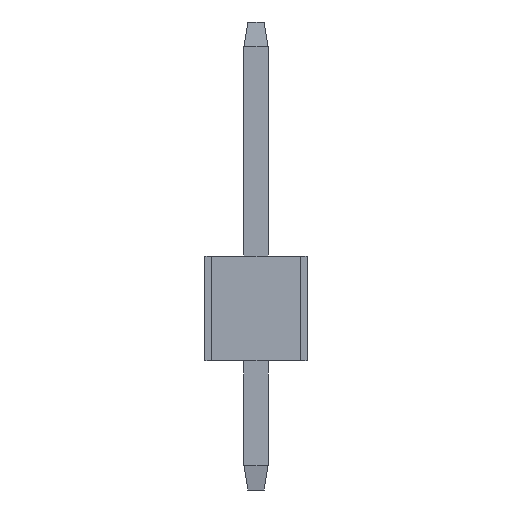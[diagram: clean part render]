
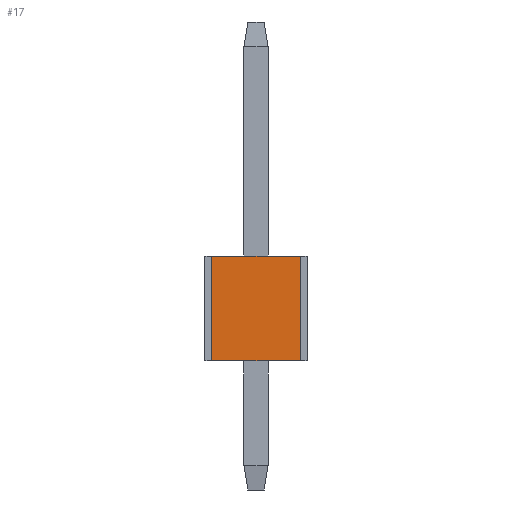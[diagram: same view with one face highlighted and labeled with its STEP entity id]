
A CAD part, left-side view. The second image highlights one B-rep face of the part: STEP entity #17.
In plain terms, the highlighted planar face has unit normal (-1, 0, 0).
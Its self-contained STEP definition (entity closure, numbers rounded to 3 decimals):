
#17 = ADVANCED_FACE('',(#18),#32,.F.);
#18 = FACE_BOUND('',#19,.F.);
#19 = EDGE_LOOP('',(#20,#55,#83,#111));
#20 = ORIENTED_EDGE('',*,*,#21,.F.);
#21 = EDGE_CURVE('',#22,#24,#26,.T.);
#22 = VERTEX_POINT('',#23);
#23 = CARTESIAN_POINT('',(0.,0.17,0.));
#24 = VERTEX_POINT('',#25);
#25 = CARTESIAN_POINT('',(0.,0.17,2.6));
#26 = SURFACE_CURVE('',#27,(#31,#43),.PCURVE_S1.);
#27 = LINE('',#28,#29);
#28 = CARTESIAN_POINT('',(0.,0.17,0.));
#29 = VECTOR('',#30,1.);
#30 = DIRECTION('',(0.,0.,1.));
#31 = PCURVE('',#32,#37);
#32 = PLANE('',#33);
#33 = AXIS2_PLACEMENT_3D('',#34,#35,#36);
#34 = CARTESIAN_POINT('',(0.,0.17,0.));
#35 = DIRECTION('',(1.,0.,0.));
#36 = DIRECTION('',(0.,0.,1.));
#37 = DEFINITIONAL_REPRESENTATION('',(#38),#42);
#38 = LINE('',#39,#40);
#39 = CARTESIAN_POINT('',(0.,0.));
#40 = VECTOR('',#41,1.);
#41 = DIRECTION('',(1.,0.));
#42 = ( GEOMETRIC_REPRESENTATION_CONTEXT(2) 
PARAMETRIC_REPRESENTATION_CONTEXT() REPRESENTATION_CONTEXT('2D SPACE',''
  ) );
#43 = PCURVE('',#44,#49);
#44 = PLANE('',#45);
#45 = AXIS2_PLACEMENT_3D('',#46,#47,#48);
#46 = CARTESIAN_POINT('',(0.,0.17,0.));
#47 = DIRECTION('',(0.,1.,0.));
#48 = DIRECTION('',(0.,0.,1.));
#49 = DEFINITIONAL_REPRESENTATION('',(#50),#54);
#50 = LINE('',#51,#52);
#51 = CARTESIAN_POINT('',(0.,0.));
#52 = VECTOR('',#53,1.);
#53 = DIRECTION('',(1.,0.));
#54 = ( GEOMETRIC_REPRESENTATION_CONTEXT(2) 
PARAMETRIC_REPRESENTATION_CONTEXT() REPRESENTATION_CONTEXT('2D SPACE',''
  ) );
#55 = ORIENTED_EDGE('',*,*,#56,.T.);
#56 = EDGE_CURVE('',#22,#57,#59,.T.);
#57 = VERTEX_POINT('',#58);
#58 = CARTESIAN_POINT('',(0.,2.37,0.));
#59 = SURFACE_CURVE('',#60,(#64,#71),.PCURVE_S1.);
#60 = LINE('',#61,#62);
#61 = CARTESIAN_POINT('',(0.,0.17,0.));
#62 = VECTOR('',#63,1.);
#63 = DIRECTION('',(0.,1.,0.));
#64 = PCURVE('',#32,#65);
#65 = DEFINITIONAL_REPRESENTATION('',(#66),#70);
#66 = LINE('',#67,#68);
#67 = CARTESIAN_POINT('',(0.,0.));
#68 = VECTOR('',#69,1.);
#69 = DIRECTION('',(0.,-1.));
#70 = ( GEOMETRIC_REPRESENTATION_CONTEXT(2) 
PARAMETRIC_REPRESENTATION_CONTEXT() REPRESENTATION_CONTEXT('2D SPACE',''
  ) );
#71 = PCURVE('',#72,#77);
#72 = PLANE('',#73);
#73 = AXIS2_PLACEMENT_3D('',#74,#75,#76);
#74 = CARTESIAN_POINT('',(0.,0.17,0.));
#75 = DIRECTION('',(0.,0.,1.));
#76 = DIRECTION('',(1.,0.,0.));
#77 = DEFINITIONAL_REPRESENTATION('',(#78),#82);
#78 = LINE('',#79,#80);
#79 = CARTESIAN_POINT('',(0.,0.));
#80 = VECTOR('',#81,1.);
#81 = DIRECTION('',(0.,1.));
#82 = ( GEOMETRIC_REPRESENTATION_CONTEXT(2) 
PARAMETRIC_REPRESENTATION_CONTEXT() REPRESENTATION_CONTEXT('2D SPACE',''
  ) );
#83 = ORIENTED_EDGE('',*,*,#84,.T.);
#84 = EDGE_CURVE('',#57,#85,#87,.T.);
#85 = VERTEX_POINT('',#86);
#86 = CARTESIAN_POINT('',(0.,2.37,2.6));
#87 = SURFACE_CURVE('',#88,(#92,#99),.PCURVE_S1.);
#88 = LINE('',#89,#90);
#89 = CARTESIAN_POINT('',(0.,2.37,0.));
#90 = VECTOR('',#91,1.);
#91 = DIRECTION('',(0.,0.,1.));
#92 = PCURVE('',#32,#93);
#93 = DEFINITIONAL_REPRESENTATION('',(#94),#98);
#94 = LINE('',#95,#96);
#95 = CARTESIAN_POINT('',(0.,-2.2));
#96 = VECTOR('',#97,1.);
#97 = DIRECTION('',(1.,0.));
#98 = ( GEOMETRIC_REPRESENTATION_CONTEXT(2) 
PARAMETRIC_REPRESENTATION_CONTEXT() REPRESENTATION_CONTEXT('2D SPACE',''
  ) );
#99 = PCURVE('',#100,#105);
#100 = PLANE('',#101);
#101 = AXIS2_PLACEMENT_3D('',#102,#103,#104);
#102 = CARTESIAN_POINT('',(0.,2.37,0.));
#103 = DIRECTION('',(0.,1.,0.));
#104 = DIRECTION('',(0.,0.,1.));
#105 = DEFINITIONAL_REPRESENTATION('',(#106),#110);
#106 = LINE('',#107,#108);
#107 = CARTESIAN_POINT('',(0.,0.));
#108 = VECTOR('',#109,1.);
#109 = DIRECTION('',(1.,0.));
#110 = ( GEOMETRIC_REPRESENTATION_CONTEXT(2) 
PARAMETRIC_REPRESENTATION_CONTEXT() REPRESENTATION_CONTEXT('2D SPACE',''
  ) );
#111 = ORIENTED_EDGE('',*,*,#112,.F.);
#112 = EDGE_CURVE('',#24,#85,#113,.T.);
#113 = SURFACE_CURVE('',#114,(#118,#125),.PCURVE_S1.);
#114 = LINE('',#115,#116);
#115 = CARTESIAN_POINT('',(0.,0.17,2.6));
#116 = VECTOR('',#117,1.);
#117 = DIRECTION('',(0.,1.,0.));
#118 = PCURVE('',#32,#119);
#119 = DEFINITIONAL_REPRESENTATION('',(#120),#124);
#120 = LINE('',#121,#122);
#121 = CARTESIAN_POINT('',(2.6,0.));
#122 = VECTOR('',#123,1.);
#123 = DIRECTION('',(0.,-1.));
#124 = ( GEOMETRIC_REPRESENTATION_CONTEXT(2) 
PARAMETRIC_REPRESENTATION_CONTEXT() REPRESENTATION_CONTEXT('2D SPACE',''
  ) );
#125 = PCURVE('',#126,#131);
#126 = PLANE('',#127);
#127 = AXIS2_PLACEMENT_3D('',#128,#129,#130);
#128 = CARTESIAN_POINT('',(0.,0.17,2.6));
#129 = DIRECTION('',(0.,0.,1.));
#130 = DIRECTION('',(1.,0.,0.));
#131 = DEFINITIONAL_REPRESENTATION('',(#132),#136);
#132 = LINE('',#133,#134);
#133 = CARTESIAN_POINT('',(0.,0.));
#134 = VECTOR('',#135,1.);
#135 = DIRECTION('',(0.,1.));
#136 = ( GEOMETRIC_REPRESENTATION_CONTEXT(2) 
PARAMETRIC_REPRESENTATION_CONTEXT() REPRESENTATION_CONTEXT('2D SPACE',''
  ) );
